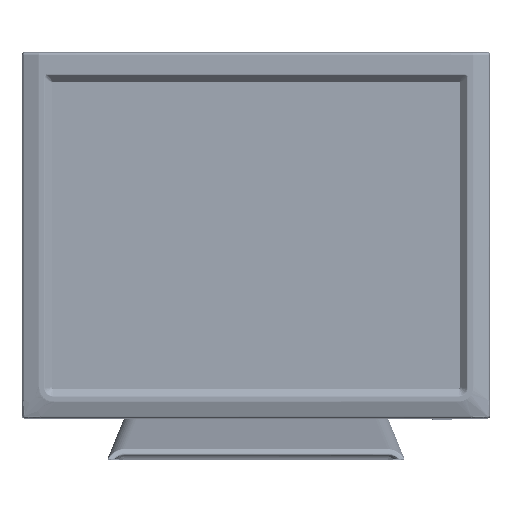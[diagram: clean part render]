
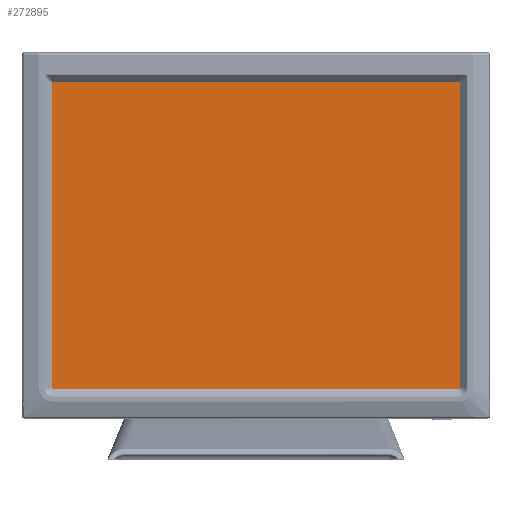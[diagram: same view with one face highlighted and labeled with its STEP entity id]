
A CAD part, top view. The second image highlights one B-rep face of the part: STEP entity #272895.
In plain terms, the highlighted planar face has unit normal (0, 0, 1).
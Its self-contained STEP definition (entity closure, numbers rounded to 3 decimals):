
#5 = EDGE_CURVE ( 'NONE', #413944, #392286, #675722, .T. ) ;
#27004 = EDGE_CURVE ( 'NONE', #392286, #217991, #462251, .T. ) ;
#56429 = CARTESIAN_POINT ( 'NONE',  ( -163.25, -126.75, -65.7 ) ) ;
#65224 = FACE_OUTER_BOUND ( 'NONE', #263461, .T. ) ;
#108214 = AXIS2_PLACEMENT_3D ( 'NONE', #123214, #273688, #482179 ) ;
#123214 = CARTESIAN_POINT ( 'NONE',  ( 0., 0., -65.7 ) ) ;
#155623 = DIRECTION ( 'NONE',  ( 0., 1., 0. ) ) ;
#155678 = ORIENTED_EDGE ( 'NONE', *, *, #178809, .F. ) ;
#170535 = VECTOR ( 'NONE', #258810, 1000. ) ;
#178809 = EDGE_CURVE ( 'NONE', #190181, #413944, #524601, .T. ) ;
#186450 = LINE ( 'NONE', #394914, #412897 ) ;
#190181 = VERTEX_POINT ( 'NONE', #243123 ) ;
#217991 = VERTEX_POINT ( 'NONE', #578466 ) ;
#240475 = CARTESIAN_POINT ( 'NONE',  ( -163.25, 126.75, -65.7 ) ) ;
#241125 = DIRECTION ( 'NONE',  ( -1., 0., 0. ) ) ;
#243123 = CARTESIAN_POINT ( 'NONE',  ( -163.25, -126.75, -65.7 ) ) ;
#258810 = DIRECTION ( 'NONE',  ( 1., 0., 0. ) ) ;
#263461 = EDGE_LOOP ( 'NONE', ( #638794, #577987, #155678, #370037 ) ) ;
#272895 = ADVANCED_FACE ( 'NONE', ( #65224 ), #283806, .F. ) ;
#273688 = DIRECTION ( 'NONE',  ( 0., 0., -1. ) ) ;
#283806 = PLANE ( 'NONE',  #108214 ) ;
#291562 = DIRECTION ( 'NONE',  ( 0., -1., 0. ) ) ;
#347628 = VECTOR ( 'NONE', #155623, 1000. ) ;
#370037 = ORIENTED_EDGE ( 'NONE', *, *, #398513, .F. ) ;
#392286 = VERTEX_POINT ( 'NONE', #659402 ) ;
#394914 = CARTESIAN_POINT ( 'NONE',  ( 163.25, -126.75, -65.7 ) ) ;
#398513 = EDGE_CURVE ( 'NONE', #217991, #190181, #186450, .T. ) ;
#412897 = VECTOR ( 'NONE', #241125, 1000. ) ;
#413944 = VERTEX_POINT ( 'NONE', #240475 ) ;
#462251 = LINE ( 'NONE', #561432, #495633 ) ;
#482179 = DIRECTION ( 'NONE',  ( 0., -1., 0. ) ) ;
#495633 = VECTOR ( 'NONE', #291562, 1000. ) ;
#524601 = LINE ( 'NONE', #56429, #347628 ) ;
#561432 = CARTESIAN_POINT ( 'NONE',  ( 163.25, 126.75, -65.7 ) ) ;
#563096 = CARTESIAN_POINT ( 'NONE',  ( -163.25, 126.75, -65.7 ) ) ;
#577987 = ORIENTED_EDGE ( 'NONE', *, *, #5, .F. ) ;
#578466 = CARTESIAN_POINT ( 'NONE',  ( 163.25, -126.75, -65.7 ) ) ;
#638794 = ORIENTED_EDGE ( 'NONE', *, *, #27004, .F. ) ;
#659402 = CARTESIAN_POINT ( 'NONE',  ( 163.25, 126.75, -65.7 ) ) ;
#675722 = LINE ( 'NONE', #563096, #170535 ) ;
